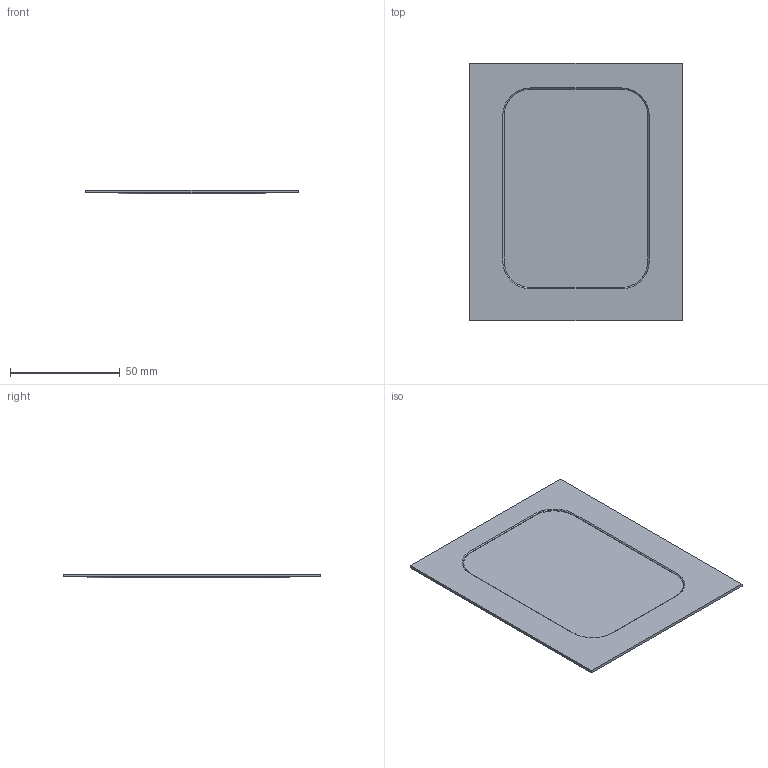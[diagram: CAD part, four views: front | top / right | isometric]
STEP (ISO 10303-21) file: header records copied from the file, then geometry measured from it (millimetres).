
FILE_DESCRIPTION((''),'1');
FILE_NAME('C:/Users/ericfrey/Desktop/200-5402-00 REV 03 EMBOSS.stp', '2015-07-20T17:13:12',(''), (''), 'KCM Version 1.1.1442.0', 'Kubotek KeyCreator', '');
FILE_SCHEMA(('AUTOMOTIVE_DESIGN'));
Length unit declared in the file: inch
Bounding box: 96.52 x 117.09 x 1.78 mm (x, y, z)
Volume: 14417.8 mm3; surface area: 23247.7 mm2
Topology: 1 solids, 1 shells, 40 faces, 96 edges, 64 vertices
Faces by surface type: plane 16, cone 8, cylinder 8, torus 8
Entity records: 1203 total; most frequent: DIRECTION 218, CARTESIAN_POINT 193, ORIENTED_EDGE 184, EDGE_CURVE 92, AXIS2_PLACEMENT_3D 81, VERTEX_POINT 56, VECTOR 56, LINE 56
